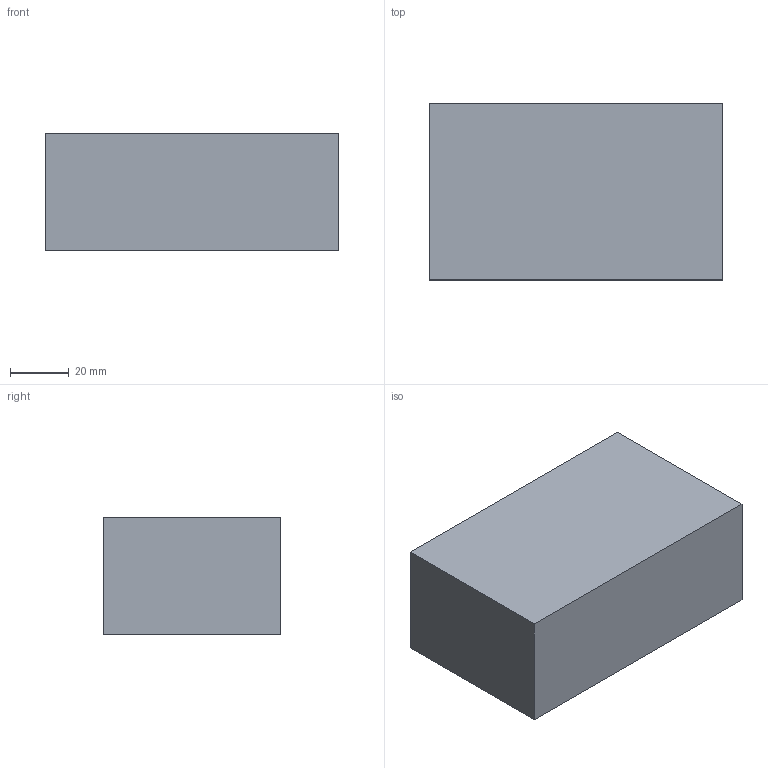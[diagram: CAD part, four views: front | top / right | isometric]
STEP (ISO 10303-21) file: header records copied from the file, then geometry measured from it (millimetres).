
FILE_DESCRIPTION(('Rectangular solid block - STEP AP214'),'2;1');
FILE_NAME('rectangular_block_100x60x40_AP214.step','2026-11-03T00:00:00',('Replit Agent'),(''),'','','');
FILE_SCHEMA(('AUTOMOTIVE_DESIGN_CC2'));
Length unit declared in the file: millimetre
Products named in the file (1): BOX_100_60_40
Bounding box: 100 x 60 x 40 mm (x, y, z)
Volume: 240000 mm3; surface area: 24800 mm2
Topology: 1 solids, 1 shells, 6 faces, 12 edges, 8 vertices
Faces by surface type: plane 6
Entity records: 132 total; most frequent: ORIENTED_EDGE 24, CARTESIAN_POINT 15, VECTOR 12, LINE 12, EDGE_CURVE 12, VERTEX_POINT 8, AXIS2_PLACEMENT_3D 7, DIRECTION 6
